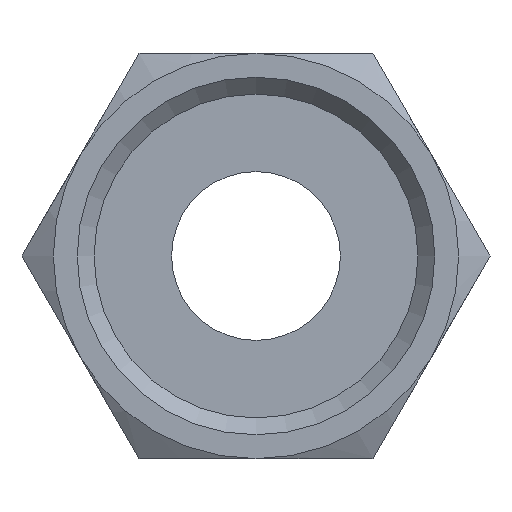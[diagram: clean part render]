
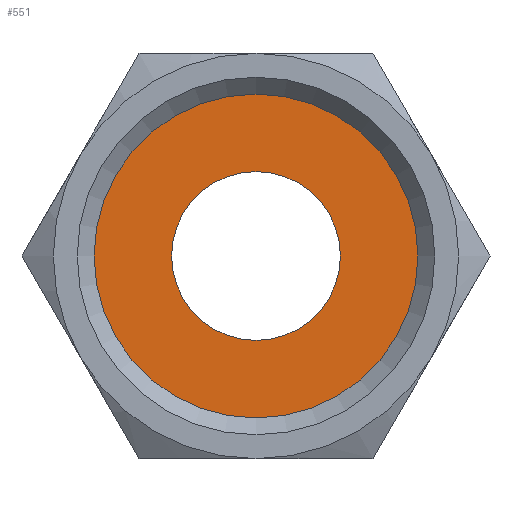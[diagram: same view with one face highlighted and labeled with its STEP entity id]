
A CAD part, front view. The second image highlights one B-rep face of the part: STEP entity #551.
In plain terms, the highlighted planar face has unit normal (0, -1, 0).
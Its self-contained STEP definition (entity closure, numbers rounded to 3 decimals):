
#48=FACE_BOUND('',#126,.T.);
#61=PLANE('',#631);
#90=FACE_OUTER_BOUND('',#125,.T.);
#125=EDGE_LOOP('',(#456,#457));
#126=EDGE_LOOP('',(#458,#459));
#179=CIRCLE('',#594,9.586);
#180=CIRCLE('',#595,9.586);
#196=CIRCLE('',#632,5.);
#197=CIRCLE('',#633,5.);
#223=VERTEX_POINT('',#855);
#224=VERTEX_POINT('',#857);
#251=VERTEX_POINT('',#1001);
#252=VERTEX_POINT('',#1002);
#280=EDGE_CURVE('',#224,#223,#179,.T.);
#281=EDGE_CURVE('',#223,#224,#180,.T.);
#328=EDGE_CURVE('',#251,#252,#196,.T.);
#329=EDGE_CURVE('',#252,#251,#197,.T.);
#456=ORIENTED_EDGE('',*,*,#280,.T.);
#457=ORIENTED_EDGE('',*,*,#281,.T.);
#458=ORIENTED_EDGE('',*,*,#328,.F.);
#459=ORIENTED_EDGE('',*,*,#329,.F.);
#551=ADVANCED_FACE('',(#90,#48),#61,.T.);
#594=AXIS2_PLACEMENT_3D('',#858,#688,#689);
#595=AXIS2_PLACEMENT_3D('',#859,#690,#691);
#631=AXIS2_PLACEMENT_3D('',#1000,#769,#770);
#632=AXIS2_PLACEMENT_3D('',#1003,#771,#772);
#633=AXIS2_PLACEMENT_3D('',#1004,#773,#774);
#688=DIRECTION('center_axis',(0.,-1.,0.));
#689=DIRECTION('ref_axis',(1.,0.,0.));
#690=DIRECTION('center_axis',(0.,-1.,0.));
#691=DIRECTION('ref_axis',(1.,0.,0.));
#769=DIRECTION('center_axis',(0.,-1.,0.));
#770=DIRECTION('ref_axis',(0.,0.,-1.));
#771=DIRECTION('center_axis',(0.,-1.,0.));
#772=DIRECTION('ref_axis',(1.,0.,0.));
#773=DIRECTION('center_axis',(0.,-1.,0.));
#774=DIRECTION('ref_axis',(1.,0.,0.));
#855=CARTESIAN_POINT('',(-9.586,14.,0.));
#857=CARTESIAN_POINT('',(9.586,14.,0.));
#858=CARTESIAN_POINT('Origin',(0.,14.,0.));
#859=CARTESIAN_POINT('Origin',(0.,14.,0.));
#1000=CARTESIAN_POINT('Origin',(5.,14.,0.));
#1001=CARTESIAN_POINT('',(5.,14.,0.));
#1002=CARTESIAN_POINT('',(-5.,14.,0.));
#1003=CARTESIAN_POINT('Origin',(0.,14.,0.));
#1004=CARTESIAN_POINT('Origin',(0.,14.,0.));
